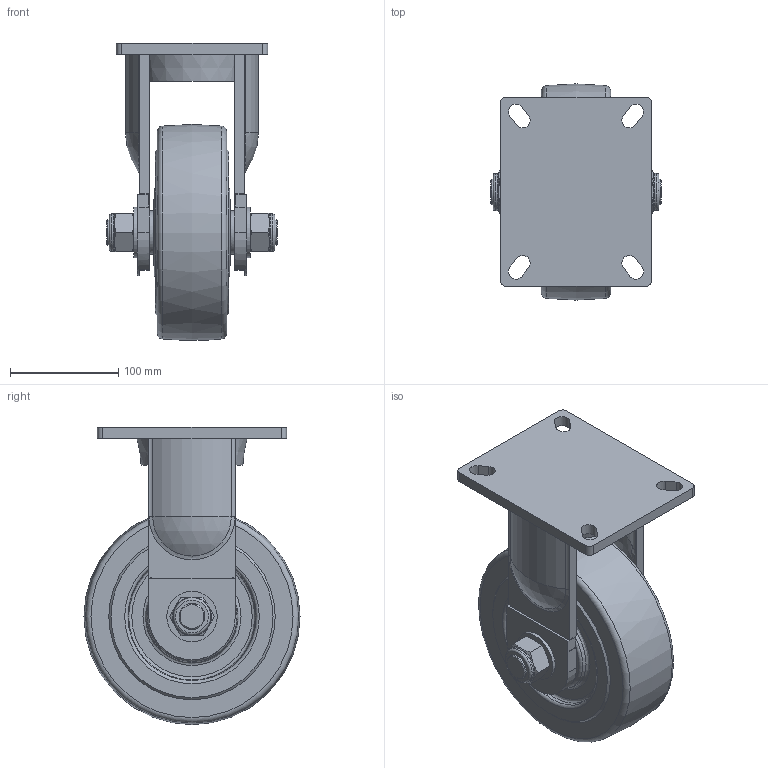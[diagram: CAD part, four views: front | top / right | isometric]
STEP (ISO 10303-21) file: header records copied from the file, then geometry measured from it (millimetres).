
FILE_DESCRIPTION((''),'2;1');
FILE_NAME('C:\Documents and Settings\Administrator\바탕 화면\3D STEP\GXT-SERIES\GXT-200\GXT-200-RF-HUD\GXT-200-RF(HUD).stp','2010-12-27T14:42:38',('Administrator'),(''),'Autodesk Inventor 2009','Autodesk Inventor 2009','');
FILE_SCHEMA(('AUTOMOTIVE_DESIGN { 1 0 10303 214 1 1 1 1 }'));
Length unit declared in the file: millimetre
Products named in the file (1): GXT-200-RF(HUD)
Bounding box: 158 x 200 x 274.98 mm (x, y, z)
Volume: 2599993.4 mm3; surface area: 280723.7 mm2
Topology: 8 solids, 8 shells, 250 faces, 579 edges, 367 vertices
Faces by surface type: plane 116, cylinder 71, bspline 22, cone 21, torus 16, sphere 4
Full cylindrical faces by diameter (mm): 22 x2, 24 x6, 24.3 x2, 24.5 x2, 26 x2, 30 x4, 34.4 x2, 35 x1, 40 x2, 40.667 x4, 46.7 x2, 51.333 x4, 55 x1, 62 x2, 78 x1
Entity records: 7572 total; most frequent: CARTESIAN_POINT 2179, DIRECTION 1128, ORIENTED_EDGE 970, EDGE_CURVE 485, AXIS2_PLACEMENT_3D 446, EDGE_LOOP 384, VERTEX_POINT 357, FACE_OUTER_BOUND 250
